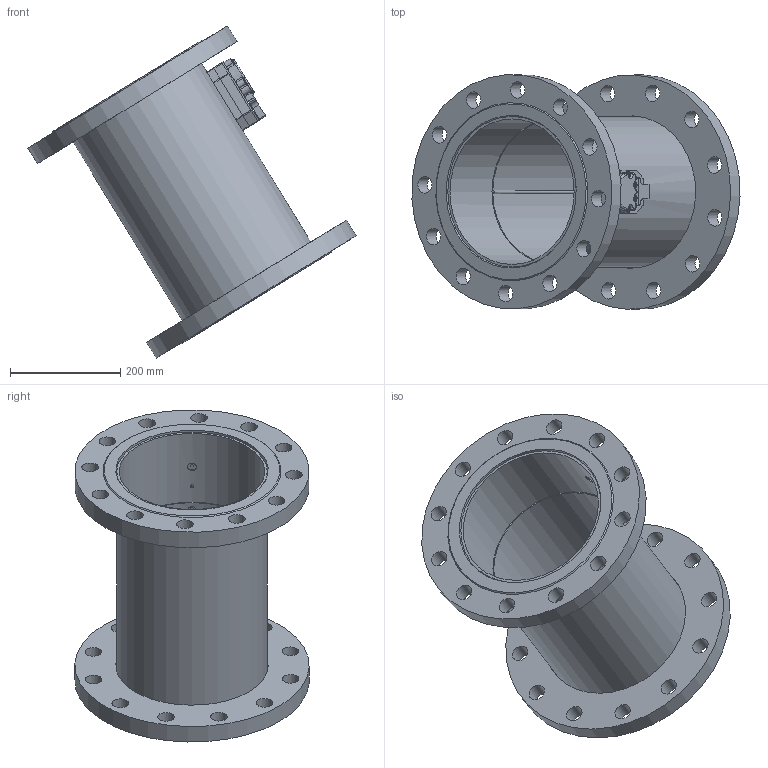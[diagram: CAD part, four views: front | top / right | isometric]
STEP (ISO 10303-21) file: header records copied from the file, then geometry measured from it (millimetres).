
FILE_DESCRIPTION( ( 'Unknown' ), '1' );
FILE_NAME( 'H:/440 pour vente_mai_2013/step_2/DN250_PN25_inox_450mm_rempli.stp', 'Unknown', ( 'Unknown' ), ( 'Unknown' ), 'PSStep 15.0.49', 'Unknown', ' ' );
FILE_SCHEMA( ( 'AUTOMOTIVE_DESIGN { 1 0 10303 214 1 1 1 1 }' ) );
Length unit declared in the file: millimetre
Products named in the file (9): 440_tête_rempli; 0440P011_rempli; 0440P012_rempli; 0440P060_rempli; Assem1; 0440P202_rempli; 0440P225_rempli; 0440P241_rempli; 0440P308_rempli
Assembly tree (10 placements, depth 3):
  Assem1
    0440P202_rempli
    0440P225_rempli  x2
    0440P241_rempli
    0440P308_rempli  x2
    440_tête_rempli
      0440P011_rempli
      0440P012_rempli
      0440P060_rempli
Bounding box: 594.81 x 424.69 x 601.95 mm (x, y, z)
Volume: 7473399.1 mm3; surface area: 1365488.4 mm2
Topology: 9 solids, 14 shells, 284 faces, 723 edges, 459 vertices
Faces by surface type: cylinder 104, plane 79, cone 57, torus 29, bspline 15
Full cylindrical faces by diameter (mm): 2.2 x1, 2.459 x2, 2.5 x1, 3 x2, 3.242 x4, 4.1 x1, 5.03 x1, 6 x1, 6.2 x6, 6.917 x2, 10.2 x2, 16 x2, 20 x4, 30 x24, 264 x1, 273 x1, 276.5 x2, 425 x2
Entity records: 13734 total; most frequent: CARTESIAN_POINT 5540, DIRECTION 1305, ORIENTED_EDGE 1106, EDGE_CURVE 553, AXIS2_PLACEMENT_3D 550, VERTEX_POINT 385, EDGE_LOOP 378, FACE_OUTER_BOUND 305
